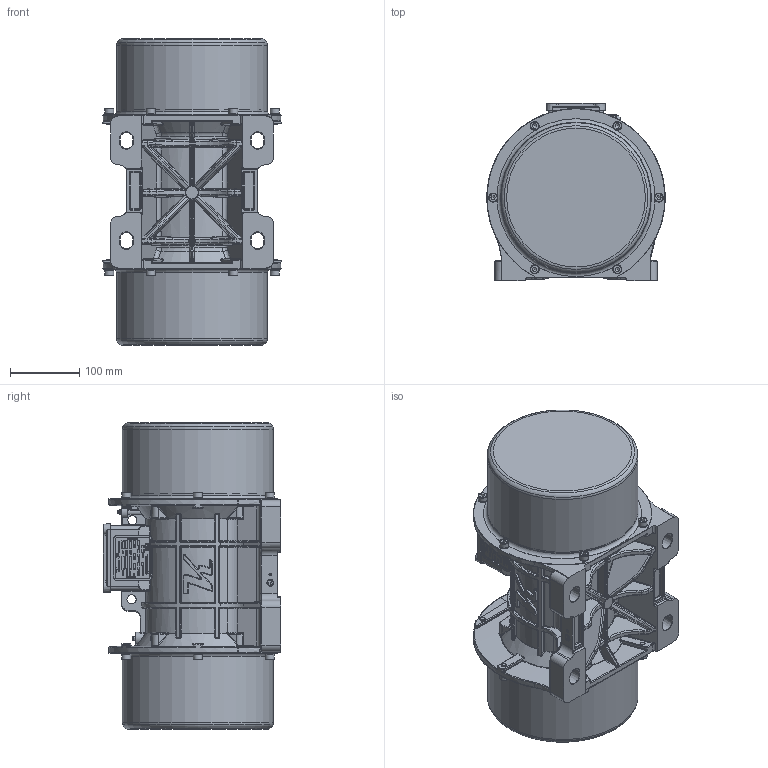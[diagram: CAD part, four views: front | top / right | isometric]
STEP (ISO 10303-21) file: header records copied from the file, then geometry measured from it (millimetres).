
FILE_DESCRIPTION(/* description */ (''),/* implementation_level */ '2;1');
FILE_NAME(/* name */ '5 NO B TAS.stp',/* time_stamp */ '2026-09-01T14:12:01+03:00',/* author */ ('PC'),/* organization */ (''),/* preprocessor_version */ 'ST-DEVELOPER v20.1',/* originating_system */ 'Autodesk Inventor 2026',/* authorisation */ '');
FILE_SCHEMA (('AUTOMOTIVE_DESIGN { 1 0 10303 214 3 1 1 }'));
Products named in the file (1): 5 NO B TAS
Bounding box: 258.38 x 256.94 x 443.6 mm (x, y, z)
Volume: 14528002.3 mm3; surface area: 647181.3 mm2
Topology: 1 solids, 37 shells, 5911 faces, 15420 edges, 9787 vertices
Faces by surface type: plane 2719, bspline 2104, cylinder 662, cone 212, torus 119, sphere 95
Full cylindrical faces by diameter (mm): 3 x2, 3.242 x4, 5 x9, 5.2 x1, 6.647 x8, 8 x20, 8.4 x14, 8.5 x16, 10 x2, 13 x12, 14 x3, 15 x1, 20 x1, 22 x1, 214.711 x1, 217 x1, 218.6 x2
Entity records: 293079 total; most frequent: CARTESIAN_POINT 154347, ORIENTED_EDGE 30622, DIRECTION 22298, EDGE_CURVE 15311, VERTEX_POINT 9787, LINE 8350, VECTOR 8350, AXIS2_PLACEMENT_3D 6974
